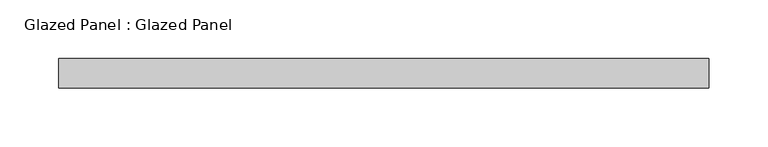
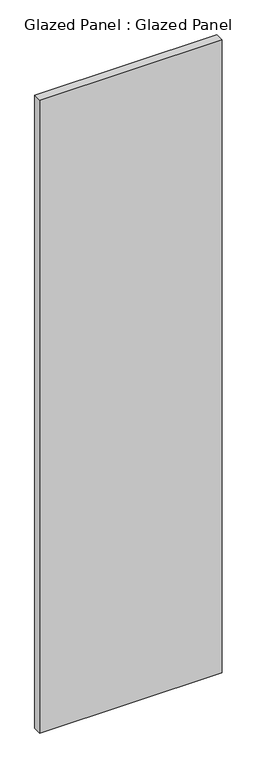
"""IFC4 building model written with IfcOpenShell, lengths in millimetres: plate geometry, Glazed Panel : Glazed Panel."""

import ifcopenshell
import ifcopenshell.guid

model = None  # the IFC model being written
_history = None  # IfcOwnerHistory: only IFC2X3 demands one
_inside = {}  # id of a spatial element -> (the spatial element, [elements in it])
_under = {}  # id of a project, library or spatial element -> (it, [spatial elements below it])
_declared = {}  # id of a project -> (the project, [libraries it declares])
_typed = {}  # id of a type object -> (the type object, [elements of that type])
_made_of = {}  # id of a material, layer set ... -> (it, [elements and type objects made of it])


def new_model(schema):
    """Start an empty IFC model of exactly this schema.

    Asked for "IFC4X3", IfcOpenShell would pick the latest addendum, in which some entities
    have other attributes; the version numbers below select the first issue.
    IFC2X3 requires an IfcOwnerHistory on every rooted entity: one is made here for all.
    """
    global model, _history
    if schema == "IFC4X3":
        model = ifcopenshell.file(schema_version=(4, 3, 0, 0))
    else:
        model = ifcopenshell.file(schema=schema)
    _inside.clear()
    _under.clear()
    _declared.clear()
    _typed.clear()
    _made_of.clear()
    _history = None
    if model.schema == "IFC2X3":
        org = make("IfcOrganization", Name="unknown")
        user = make(
            "IfcPersonAndOrganization",
            ThePerson=make("IfcPerson", FamilyName="unknown"),
            TheOrganization=org,
        )
        app = make(
            "IfcApplication",
            ApplicationDeveloper=org,
            Version="unknown",
            ApplicationFullName="unknown",
            ApplicationIdentifier="unknown",
        )
        _history = make(
            "IfcOwnerHistory",
            OwningUser=user,
            OwningApplication=app,
            ChangeAction="ADDED",
            CreationDate=0,
        )
    return model


def make(cls, **values):
    """One entity of the class cls with the attributes given. An attribute that is None is left unset."""
    return model.create_entity(
        cls, **{name: value for name, value in values.items() if value is not None}
    )


def rooted(cls, **values):
    """An entity with a GlobalId (a new one), such as an element, a storey or a relation."""
    return make(cls, GlobalId=ifcopenshell.guid.new(), OwnerHistory=_history, **values)


def si_unit(unit_type, name, prefix=None):
    """IfcSIUnit, for example si_unit("LENGTHUNIT", "METRE", prefix="MILLI")."""
    return make("IfcSIUnit", UnitType=unit_type, Prefix=prefix, Name=name)


def assignment(units):
    """IfcUnitAssignment: the units of a project."""
    return None if units is None else make("IfcUnitAssignment", Units=units)


def point(xyz):
    """IfcCartesianPoint."""
    return None if xyz is None else make("IfcCartesianPoint", Coordinates=xyz)


def direction(xyz):
    """IfcDirection."""
    return None if xyz is None else make("IfcDirection", DirectionRatios=xyz)


def frame(location, z_axis=None, x_axis=None):
    """IfcAxis2Placement3D, a coordinate frame: its origin and axes. An axis left out is left unset."""
    return make(
        "IfcAxis2Placement3D",
        Location=point(location),
        Axis=direction(z_axis),
        RefDirection=direction(x_axis),
    )


def origin():
    """The frame at (0, 0, 0) with its axes left unset."""
    return frame((0.0, 0.0, 0.0))


def origin_with_axes():
    """The frame at (0, 0, 0) with the z axis (0, 0, 1) and the x axis (1, 0, 0) written out."""
    return frame((0.0, 0.0, 0.0), z_axis=(0.0, 0.0, 1.0), x_axis=(1.0, 0.0, 0.0))


def place(relative_to, where):
    """IfcLocalPlacement: puts the frame where relative to a parent placement (None: the world)."""
    return make(
        "IfcLocalPlacement", PlacementRelTo=relative_to, RelativePlacement=where
    )


def context(
    kind, dimensions, precision=None, world=None, true_north=None, identifier=None
):
    """IfcGeometricRepresentationContext, for example the 3D "Model" context."""
    return make(
        "IfcGeometricRepresentationContext",
        ContextIdentifier=identifier,
        ContextType=kind,
        CoordinateSpaceDimension=dimensions,
        Precision=precision,
        WorldCoordinateSystem=world,
        TrueNorth=true_north,
    )


def project(units=None, contexts=None):
    """IfcProject with its units and contexts."""
    return rooted(
        "IfcProject",
        Name="project",
        RepresentationContexts=contexts,
        UnitsInContext=assignment(units),
    )


def spatial(cls, under=None, at=None, **own):
    """A site, building, storey or space (cls), placed at a placement, below another one or the project."""
    s = rooted(cls, ObjectPlacement=at, **own)
    if under is not None:
        _under.setdefault(under.id(), (under, []))[1].append(s)
    return s


def polyline(points):
    """IfcPolyline through the points."""
    return make("IfcPolyline", Points=[point(p) for p in points])


def outline(outer, holes=None, kind="AREA"):
    """IfcArbitraryClosedProfileDef: a profile drawn as a closed curve; with holes, ...WithVoids."""
    if holes is None:
        return make("IfcArbitraryClosedProfileDef", ProfileType=kind, OuterCurve=outer)
    return make(
        "IfcArbitraryProfileDefWithVoids",
        ProfileType=kind,
        OuterCurve=outer,
        InnerCurves=holes,
    )


def extrude(swept, where, along, depth):
    """IfcExtrudedAreaSolid: the profile swept, set in the frame where, extruded along a direction by depth."""
    return make(
        "IfcExtrudedAreaSolid",
        SweptArea=swept,
        Position=where,
        ExtrudedDirection=direction(along),
        Depth=depth,
    )


def shape(context_of_items, identifier, shape_type, items):
    """IfcShapeRepresentation: the items that make up one representation, for example the "Body"."""
    return make(
        "IfcShapeRepresentation",
        ContextOfItems=context_of_items,
        RepresentationIdentifier=identifier,
        RepresentationType=shape_type,
        Items=items,
    )


def source(mapping_origin, context_of_items, identifier, shape_type, items):
    """IfcRepresentationMap: a shape defined once, which mapped items show again and again."""
    return make(
        "IfcRepresentationMap",
        MappingOrigin=mapping_origin,
        MappedRepresentation=shape(context_of_items, identifier, shape_type, items),
    )


def transform(
    local_origin,
    x_axis=None,
    y_axis=None,
    z_axis=None,
    scale=None,
    scale2=None,
    scale3=None,
    uniform=True,
):
    """IfcCartesianTransformationOperator3D, or its non-uniform kind. x_axis, y_axis, z_axis: its Axis1, 2, 3."""
    if uniform:
        return make(
            "IfcCartesianTransformationOperator3D",
            Axis1=direction(x_axis),
            Axis2=direction(y_axis),
            LocalOrigin=point(local_origin),
            Scale=scale,
            Axis3=direction(z_axis),
        )
    return make(
        "IfcCartesianTransformationOperator3DnonUniform",
        Axis1=direction(x_axis),
        Axis2=direction(y_axis),
        LocalOrigin=point(local_origin),
        Scale=scale,
        Axis3=direction(z_axis),
        Scale2=scale2,
        Scale3=scale3,
    )


def mapped(mapping_source, mapping_target):
    """IfcMappedItem: shows the shape of a source again, moved by a transform."""
    return make(
        "IfcMappedItem", MappingSource=mapping_source, MappingTarget=mapping_target
    )


def made_of(thing, what):
    """Note that an element or type object is made of a material, layer set ...; save() writes the relation."""
    if what is not None:
        _made_of.setdefault(what.id(), (what, []))[1].append(thing)
    return thing


def element(
    cls,
    number,
    at=None,
    inside=None,
    cuts=None,
    type_object=None,
    material=None,
    context=None,
    identifier="Body",
    shape_type=None,
    held_by="IfcProductDefinitionShape",
    body=None,
    shapes=None,
    **own,
):
    """One element of the class cls, such as IfcWall. Its Tag is "e" and its number.

    at: its placement. inside: the storey or other place that contains it. cuts: it is an
    opening in that element (IfcRelVoidsElement). A single representation is given by context,
    identifier, shape_type and body (its items); several are given by shapes. held_by: the class
    of the entity that holds the representations. save() writes the other relations.
    """
    e = rooted(cls, Tag="e%d" % number, ObjectPlacement=at, **own)
    if body is not None:
        shapes = [shape(context, identifier, shape_type, body)]
    if shapes is not None:
        e.Representation = make(held_by, Representations=shapes)
    if inside is not None:
        _inside.setdefault(inside.id(), (inside, []))[1].append(e)
    if cuts is not None:
        rooted(
            "IfcRelVoidsElement", RelatingBuildingElement=cuts, RelatedOpeningElement=e
        )
    if type_object is not None:
        _typed.setdefault(type_object.id(), (type_object, []))[1].append(e)
    return made_of(e, material)


def aggregate(whole, parts):
    """IfcRelAggregates: a whole, such as a stair, and the parts it consists of."""
    return rooted("IfcRelAggregates", RelatingObject=whole, RelatedObjects=parts)


def save(model, path):
    """Write the relations noted so far, then the file.

    IfcRelAggregates (storeys below a building ...), IfcRelContainedInSpatialStructure (elements
    in a storey), IfcRelDefinesByType, IfcRelAssociatesMaterial and IfcRelDeclares: one each for
    every whole, place, type object, material and project.
    """
    for whole, parts in _under.values():
        aggregate(whole, parts)
    for where, things in _inside.values():
        rooted(
            "IfcRelContainedInSpatialStructure",
            RelatedElements=things,
            RelatingStructure=where,
        )
    for kind, things in _typed.values():
        rooted("IfcRelDefinesByType", RelatedObjects=things, RelatingType=kind)
    for what, things in _made_of.values():
        rooted("IfcRelAssociatesMaterial", RelatedObjects=things, RelatingMaterial=what)
    for by, libraries in _declared.values():
        rooted("IfcRelDeclares", RelatingContext=by, RelatedDefinitions=libraries)
    model.write(path)


def glazed_panel_glazed_panel_eaccde55(model_context):
    return source(origin(), model_context, "Body", "SweptSolid", [
        extrude(outline(polyline([(277.8125, 38.1), (-277.8125, 38.1), (-277.8125, 63.5), (277.8125, 63.5), (277.8125, 38.1)])), origin_with_axes(), (0.0, 0.0, 1.0), 2038.35),
    ])


if __name__ == "__main__":
    model = new_model("IFC4")
    model_context = context("Model", 3, world=origin())
    ifc_project = project(units=[si_unit("LENGTHUNIT", "METRE", prefix="MILLI")], contexts=[model_context])
    site = spatial("IfcSite", under=ifc_project)
    building = spatial("IfcBuilding", under=site)
    placement = place(None, origin())
    glazed_panel_glazed_panel_shape = glazed_panel_glazed_panel_eaccde55(model_context)
    element("IfcPlate", 1, ObjectType="Glazed Panel : Glazed Panel", at=placement, inside=building, context=model_context, shape_type="MappedRepresentation", body=[
        mapped(glazed_panel_glazed_panel_shape, transform((0.0, 0.0, 0.0), x_axis=(1.0, 0.0, 0.0), y_axis=(0.0, 1.0, 0.0), z_axis=(0.0, 0.0, 1.0))),
    ])
    save(model, "model.ifc")
